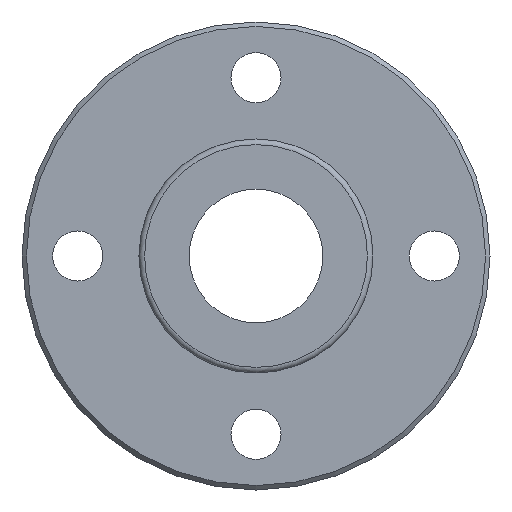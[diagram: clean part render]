
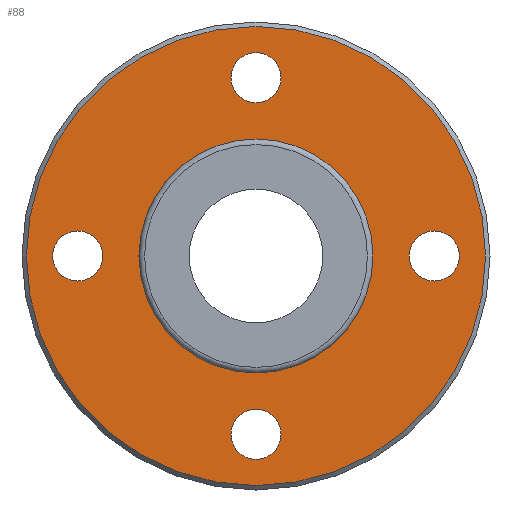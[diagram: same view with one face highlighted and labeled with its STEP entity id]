
A CAD part, left-side view. The second image highlights one B-rep face of the part: STEP entity #88.
In plain terms, the highlighted planar face has unit normal (-1, 0, 0).
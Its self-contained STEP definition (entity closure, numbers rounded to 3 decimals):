
#88=ADVANCED_FACE('',(#147,#148,#149,#150,#151,#152),#153,.T.);
#147=FACE_OUTER_BOUND('',#239,.T.);
#148=FACE_BOUND('',#240,.T.);
#149=FACE_BOUND('',#241,.T.);
#150=FACE_BOUND('',#242,.T.);
#151=FACE_BOUND('',#243,.T.);
#152=FACE_BOUND('',#244,.T.);
#153=PLANE('',#245);
#239=EDGE_LOOP('',(#357));
#240=EDGE_LOOP('',(#358));
#241=EDGE_LOOP('',(#359));
#242=EDGE_LOOP('',(#360));
#243=EDGE_LOOP('',(#361));
#244=EDGE_LOOP('',(#362));
#245=AXIS2_PLACEMENT_3D('',#363,#364,#365);
#357=ORIENTED_EDGE('',*,*,#456,.T.);
#358=ORIENTED_EDGE('',*,*,#437,.F.);
#359=ORIENTED_EDGE('',*,*,#459,.T.);
#360=ORIENTED_EDGE('',*,*,#460,.T.);
#361=ORIENTED_EDGE('',*,*,#450,.T.);
#362=ORIENTED_EDGE('',*,*,#454,.T.);
#363=CARTESIAN_POINT('',(-6.0,15.375,0.0));
#364=DIRECTION('',(-1.0,0.0,0.));
#365=DIRECTION('',(0.,0.0,1.0));
#437=EDGE_CURVE('',#470,#470,#471,.T.);
#450=EDGE_CURVE('',#496,#496,#497,.T.);
#454=EDGE_CURVE('',#504,#504,#505,.T.);
#456=EDGE_CURVE('',#508,#508,#509,.T.);
#459=EDGE_CURVE('',#514,#514,#515,.T.);
#460=EDGE_CURVE('',#516,#516,#517,.T.);
#470=VERTEX_POINT('',#534);
#471=CIRCLE('',#535,10.15);
#496=VERTEX_POINT('',#560);
#497=CIRCLE('',#561,2.25);
#504=VERTEX_POINT('',#568);
#505=CIRCLE('',#569,2.25);
#508=VERTEX_POINT('',#572);
#509=CIRCLE('',#573,20.6);
#514=VERTEX_POINT('',#578);
#515=CIRCLE('',#579,2.25);
#516=VERTEX_POINT('',#580);
#517=CIRCLE('',#581,2.25);
#534=CARTESIAN_POINT('',(-6.0,10.15,0.0));
#535=AXIS2_PLACEMENT_3D('',#599,#600,#601);
#560=CARTESIAN_POINT('',(-6.0,-16.0,2.25));
#561=AXIS2_PLACEMENT_3D('',#638,#639,#640);
#568=CARTESIAN_POINT('',(-6.0,0.0,18.25));
#569=AXIS2_PLACEMENT_3D('',#650,#651,#652);
#572=CARTESIAN_POINT('',(-6.0,20.6,0.0));
#573=AXIS2_PLACEMENT_3D('',#656,#657,#658);
#578=CARTESIAN_POINT('',(-6.0,16.0,2.25));
#579=AXIS2_PLACEMENT_3D('',#665,#666,#667);
#580=CARTESIAN_POINT('',(-6.0,0.0,-13.75));
#581=AXIS2_PLACEMENT_3D('',#668,#669,#670);
#599=CARTESIAN_POINT('',(-6.0,0.0,0.0));
#600=DIRECTION('',(-1.0,0.0,0.));
#601=DIRECTION('',(0.0,1.0,0.0));
#638=CARTESIAN_POINT('',(-6.0,-16.0,0.));
#639=DIRECTION('',(1.0,0.0,0.));
#640=DIRECTION('',(0.,0.0,-1.0));
#650=CARTESIAN_POINT('',(-6.0,0.0,16.0));
#651=DIRECTION('',(1.0,0.0,0.));
#652=DIRECTION('',(0.,0.0,-1.0));
#656=CARTESIAN_POINT('',(-6.0,0.0,0.0));
#657=DIRECTION('',(-1.0,0.0,0.));
#658=DIRECTION('',(0.0,1.0,0.0));
#665=CARTESIAN_POINT('',(-6.0,16.0,0.));
#666=DIRECTION('',(1.0,0.0,0.));
#667=DIRECTION('',(0.,0.0,-1.0));
#668=CARTESIAN_POINT('',(-6.0,0.0,-16.0));
#669=DIRECTION('',(1.0,0.0,0.));
#670=DIRECTION('',(0.,0.0,-1.0));
